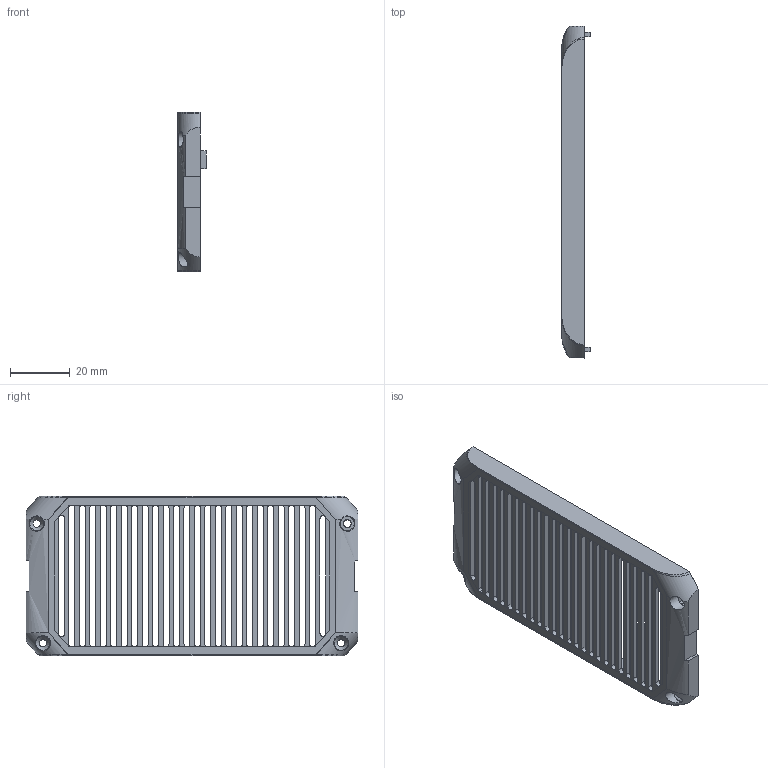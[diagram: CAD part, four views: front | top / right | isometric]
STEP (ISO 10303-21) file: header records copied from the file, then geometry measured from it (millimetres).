
FILE_DESCRIPTION(/* description */ ('Mechanical assembly'),/* implementation_level */ '2;1');
FILE_NAME(/* name */ 'cnc-milled-back-panel-al.step',/* author */ 'Antmicro',/* time_stamp */ '2026-04-10T14:20:06.931432+02:00',/* commit_sha */ 'eddb39f28ccbc5f8daa44304dfdfea7f8db63fb1',/* commit_msg */ '[#94115] Update part description',/* generator */ 'stephen',/* generator_ver */ '0.0.1');
FILE_SCHEMA(('AUTOMOTIVE_DESIGN { 1 0 10303 214 1 1 1 1 }'));
Length unit declared in the file: millimetre
Products named in the file (3): C-JAT-BP-AL-A
Assembly tree (2 placements, depth 2):
  C-JAT-BP-AL-A
    C-JAT-BP-AL-A
    C-JAT-BP-AL-A
Bounding box: 9.5 x 111 x 53.5 mm (x, y, z)
Volume: 15507.2 mm3; surface area: 22216.2 mm2
Topology: 2 solids, 2 shells, 266 faces, 783 edges, 527 vertices
Faces by surface type: plane 150, cylinder 104, cone 8, bspline 4
Full cylindrical faces by diameter (mm): 2.5 x4, 2.7 x4, 5.1 x8
Entity records: 22936 total; most frequent: CARTESIAN_POINT 7399, DIRECTION 2859, LINE 1743, VECTOR 1743, ORIENTED_EDGE 1566, PCURVE 1566, DEFINITIONAL_REPRESENTATION 1566, EDGE_CURVE 783
